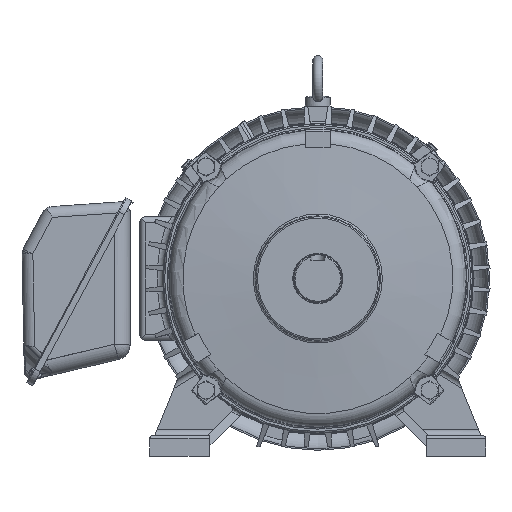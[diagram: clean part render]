
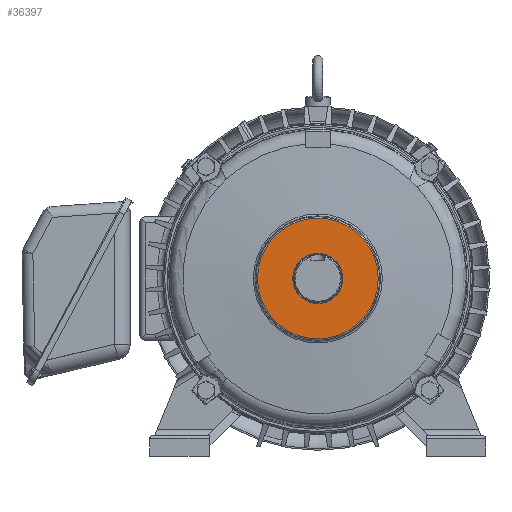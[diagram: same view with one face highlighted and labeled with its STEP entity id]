
A CAD part, front view. The second image highlights one B-rep face of the part: STEP entity #36397.
In plain terms, the highlighted planar face has unit normal (0, -1, 0).
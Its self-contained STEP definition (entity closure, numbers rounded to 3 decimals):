
#3686=CIRCLE('',#38942,25.4);
#3746=CIRCLE('',#39042,61.081);
#8167=ORIENTED_EDGE('',*,*,#16439,.T.);
#8168=ORIENTED_EDGE('',*,*,#16263,.F.);
#16263=EDGE_CURVE('',#20667,#20667,#3686,.T.);
#16439=EDGE_CURVE('',#20786,#20786,#3746,.T.);
#20667=VERTEX_POINT('',#61989);
#20786=VERTEX_POINT('',#63275);
#26432=EDGE_LOOP('',(#8167));
#26433=EDGE_LOOP('',(#8168));
#28785=FACE_BOUND('',#26432,.T.);
#28786=FACE_BOUND('',#26433,.T.);
#30656=PLANE('',#39041);
#36397=ADVANCED_FACE('',(#28785,#28786),#30656,.T.);
#38942=AXIS2_PLACEMENT_3D('',#61988,#44112,#44113);
#39041=AXIS2_PLACEMENT_3D('',#63273,#44331,#44332);
#39042=AXIS2_PLACEMENT_3D('',#63274,#44333,#44334);
#44112=DIRECTION('',(0.,-1.,0.));
#44113=DIRECTION('',(0.,0.,-1.));
#44331=DIRECTION('',(0.,-1.,0.));
#44332=DIRECTION('',(0.,0.,-1.));
#44333=DIRECTION('',(0.,-1.,0.));
#44334=DIRECTION('',(0.,0.,-1.));
#61988=CARTESIAN_POINT('',(0.,0.,0.));
#61989=CARTESIAN_POINT('',(0.,0.,-25.4));
#63273=CARTESIAN_POINT('',(0.,0.,25.4));
#63274=CARTESIAN_POINT('',(0.,0.,0.));
#63275=CARTESIAN_POINT('',(0.,0.,-61.081));
